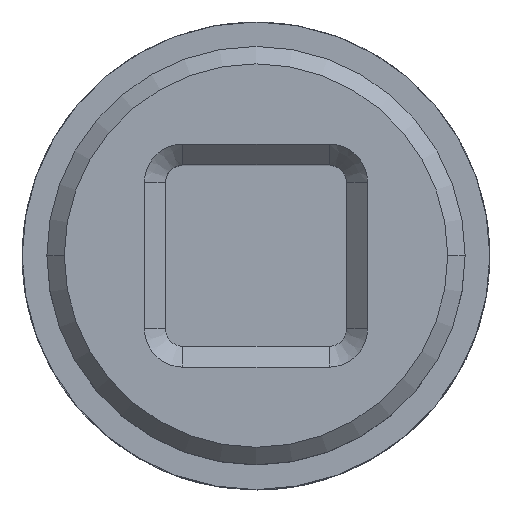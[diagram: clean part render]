
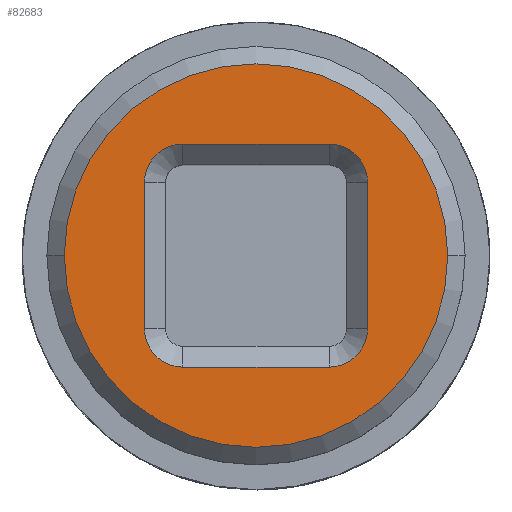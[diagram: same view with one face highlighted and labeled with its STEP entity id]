
A CAD part, top view. The second image highlights one B-rep face of the part: STEP entity #82683.
In plain terms, the highlighted planar face has unit normal (0, 0, 1).
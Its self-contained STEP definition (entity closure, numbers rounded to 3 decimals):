
#1267 = ORIENTED_EDGE ( 'NONE', *, *, #111092, .T. ) ;
#4041 = ORIENTED_EDGE ( 'NONE', *, *, #68464, .T. ) ;
#6747 = VERTEX_POINT ( 'NONE', #115774 ) ;
#6761 = VERTEX_POINT ( 'NONE', #15266 ) ;
#9394 = EDGE_LOOP ( 'NONE', ( #100817, #57237 ) ) ;
#11552 = CARTESIAN_POINT ( 'NONE',  ( 3.2, -2.1, 8.75 ) ) ;
#11942 = CARTESIAN_POINT ( 'NONE',  ( -2.1, 2.1, 8.75 ) ) ;
#12243 = VECTOR ( 'NONE', #104382, 1000. ) ;
#12341 = DIRECTION ( 'NONE',  ( 1., 0., 0. ) ) ;
#14714 = DIRECTION ( 'NONE',  ( 1., 0., 0. ) ) ;
#15266 = CARTESIAN_POINT ( 'NONE',  ( 2.1, -3.2, 8.75 ) ) ;
#16701 = CIRCLE ( 'NONE', #19559, 1.1 ) ;
#18436 = EDGE_CURVE ( 'NONE', #25538, #74625, #62965, .T. ) ;
#18440 = ORIENTED_EDGE ( 'NONE', *, *, #111268, .T. ) ;
#19097 = CARTESIAN_POINT ( 'NONE',  ( -2.1, -3.2, 8.75 ) ) ;
#19559 = AXIS2_PLACEMENT_3D ( 'NONE', #73890, #100546, #46404 ) ;
#20945 = LINE ( 'NONE', #103991, #73025 ) ;
#25188 = CIRCLE ( 'NONE', #86046, 1.1 ) ;
#25538 = VERTEX_POINT ( 'NONE', #99224 ) ;
#26826 = DIRECTION ( 'NONE',  ( 1., 0., 0. ) ) ;
#27147 = ORIENTED_EDGE ( 'NONE', *, *, #105752, .T. ) ;
#27259 = ORIENTED_EDGE ( 'NONE', *, *, #49872, .T. ) ;
#28422 = CARTESIAN_POINT ( 'NONE',  ( -2.1, -3.2, 8.75 ) ) ;
#30139 = DIRECTION ( 'NONE',  ( 1., 0., 0. ) ) ;
#33752 = FACE_BOUND ( 'NONE', #118067, .T. ) ;
#35851 = VERTEX_POINT ( 'NONE', #79754 ) ;
#41220 = DIRECTION ( 'NONE',  ( 0., 0., -1. ) ) ;
#41353 = VERTEX_POINT ( 'NONE', #107449 ) ;
#43059 = AXIS2_PLACEMENT_3D ( 'NONE', #76423, #103860, #85702 ) ;
#46404 = DIRECTION ( 'NONE',  ( 1., 0., 0. ) ) ;
#49872 = EDGE_CURVE ( 'NONE', #35851, #41353, #62733, .T. ) ;
#50226 = ORIENTED_EDGE ( 'NONE', *, *, #111478, .T. ) ;
#50378 = DIRECTION ( 'NONE',  ( 0., 1., 0. ) ) ;
#51115 = CARTESIAN_POINT ( 'NONE',  ( 0., 0., 8.75 ) ) ;
#55401 = FACE_OUTER_BOUND ( 'NONE', #9394, .T. ) ;
#55744 = VERTEX_POINT ( 'NONE', #94686 ) ;
#57237 = ORIENTED_EDGE ( 'NONE', *, *, #18436, .T. ) ;
#58378 = EDGE_CURVE ( 'NONE', #74625, #25538, #77153, .T. ) ;
#61161 = VERTEX_POINT ( 'NONE', #19097 ) ;
#62733 = LINE ( 'NONE', #95218, #105982 ) ;
#62965 = CIRCLE ( 'NONE', #43059, 5.5 ) ;
#63984 = CARTESIAN_POINT ( 'NONE',  ( -5.5, 0., 8.75 ) ) ;
#66047 = VERTEX_POINT ( 'NONE', #105001 ) ;
#67312 = ORIENTED_EDGE ( 'NONE', *, *, #78221, .T. ) ;
#68356 = VECTOR ( 'NONE', #93006, 1000. ) ;
#68464 = EDGE_CURVE ( 'NONE', #55744, #97545, #25188, .T. ) ;
#69484 = CARTESIAN_POINT ( 'NONE',  ( 2.1, 2.1, 8.75 ) ) ;
#69799 = AXIS2_PLACEMENT_3D ( 'NONE', #51115, #116533, #78587 ) ;
#70050 = DIRECTION ( 'NONE',  ( 0., 0., -1. ) ) ;
#73025 = VECTOR ( 'NONE', #30139, 1000. ) ;
#73890 = CARTESIAN_POINT ( 'NONE',  ( 2.1, -2.1, 8.75 ) ) ;
#73996 = AXIS2_PLACEMENT_3D ( 'NONE', #109179, #118071, #26826 ) ;
#74625 = VERTEX_POINT ( 'NONE', #63984 ) ;
#76423 = CARTESIAN_POINT ( 'NONE',  ( 0., 0., 8.75 ) ) ;
#77153 = CIRCLE ( 'NONE', #73996, 5.5 ) ;
#78221 = EDGE_CURVE ( 'NONE', #6761, #61161, #79974, .T. ) ;
#78587 = DIRECTION ( 'NONE',  ( 1., 0., 0. ) ) ;
#78997 = PLANE ( 'NONE',  #69799 ) ;
#79754 = CARTESIAN_POINT ( 'NONE',  ( -3.2, -2.1, 8.75 ) ) ;
#79974 = LINE ( 'NONE', #28422, #68356 ) ;
#82364 = AXIS2_PLACEMENT_3D ( 'NONE', #107167, #70050, #14714 ) ;
#82683 = ADVANCED_FACE ( 'NONE', ( #55401, #33752 ), #78997, .T. ) ;
#85345 = AXIS2_PLACEMENT_3D ( 'NONE', #11942, #85833, #12341 ) ;
#85702 = DIRECTION ( 'NONE',  ( 1., 0., 0. ) ) ;
#85833 = DIRECTION ( 'NONE',  ( 0., 0., -1. ) ) ;
#86046 = AXIS2_PLACEMENT_3D ( 'NONE', #69484, #41220, #105795 ) ;
#93006 = DIRECTION ( 'NONE',  ( -1., 0., 0. ) ) ;
#94512 = CIRCLE ( 'NONE', #82364, 1.1 ) ;
#94686 = CARTESIAN_POINT ( 'NONE',  ( 2.1, 3.2, 8.75 ) ) ;
#95218 = CARTESIAN_POINT ( 'NONE',  ( -3.2, 2.1, 8.75 ) ) ;
#97545 = VERTEX_POINT ( 'NONE', #105339 ) ;
#99224 = CARTESIAN_POINT ( 'NONE',  ( 5.5, 0., 8.75 ) ) ;
#100460 = LINE ( 'NONE', #11552, #12243 ) ;
#100546 = DIRECTION ( 'NONE',  ( 0., 0., -1. ) ) ;
#100817 = ORIENTED_EDGE ( 'NONE', *, *, #58378, .T. ) ;
#103860 = DIRECTION ( 'NONE',  ( 0., 0., 1. ) ) ;
#103991 = CARTESIAN_POINT ( 'NONE',  ( 2.1, 3.2, 8.75 ) ) ;
#104382 = DIRECTION ( 'NONE',  ( 0., -1., 0. ) ) ;
#105001 = CARTESIAN_POINT ( 'NONE',  ( 3.2, -2.1, 8.75 ) ) ;
#105339 = CARTESIAN_POINT ( 'NONE',  ( 3.2, 2.1, 8.75 ) ) ;
#105752 = EDGE_CURVE ( 'NONE', #66047, #6761, #16701, .T. ) ;
#105795 = DIRECTION ( 'NONE',  ( 1., 0., 0. ) ) ;
#105982 = VECTOR ( 'NONE', #50378, 1000. ) ;
#107167 = CARTESIAN_POINT ( 'NONE',  ( -2.1, -2.1, 8.75 ) ) ;
#107449 = CARTESIAN_POINT ( 'NONE',  ( -3.2, 2.1, 8.75 ) ) ;
#109179 = CARTESIAN_POINT ( 'NONE',  ( 0., 0., 8.75 ) ) ;
#110518 = CIRCLE ( 'NONE', #85345, 1.1 ) ;
#111092 = EDGE_CURVE ( 'NONE', #97545, #66047, #100460, .T. ) ;
#111268 = EDGE_CURVE ( 'NONE', #6747, #55744, #20945, .T. ) ;
#111478 = EDGE_CURVE ( 'NONE', #41353, #6747, #110518, .T. ) ;
#115774 = CARTESIAN_POINT ( 'NONE',  ( -2.1, 3.2, 8.75 ) ) ;
#116533 = DIRECTION ( 'NONE',  ( 0., 0., 1. ) ) ;
#118067 = EDGE_LOOP ( 'NONE', ( #118204, #27259, #50226, #18440, #4041, #1267, #27147, #67312 ) ) ;
#118071 = DIRECTION ( 'NONE',  ( 0., 0., 1. ) ) ;
#118204 = ORIENTED_EDGE ( 'NONE', *, *, #119059, .T. ) ;
#119059 = EDGE_CURVE ( 'NONE', #61161, #35851, #94512, .T. ) ;
